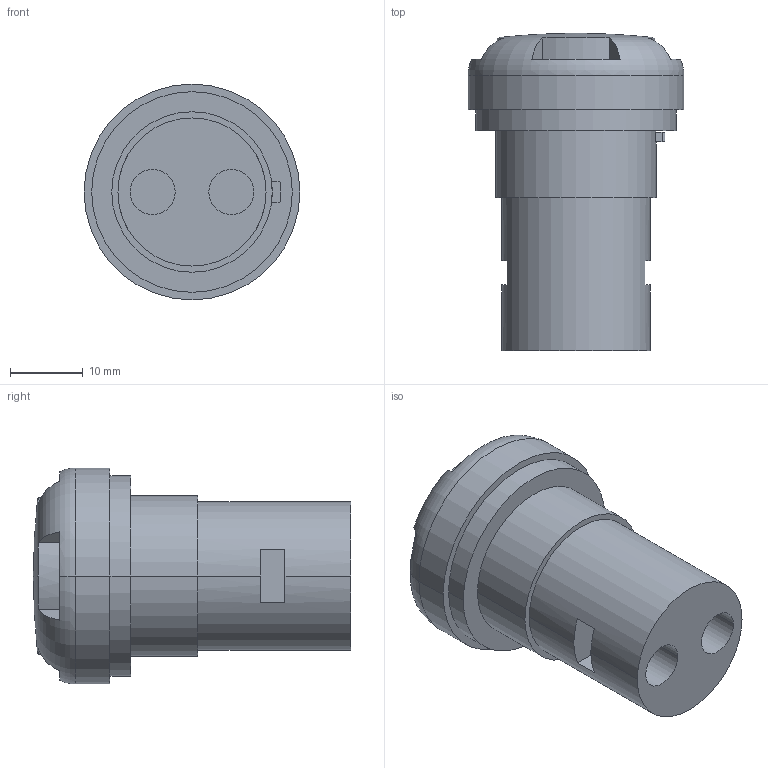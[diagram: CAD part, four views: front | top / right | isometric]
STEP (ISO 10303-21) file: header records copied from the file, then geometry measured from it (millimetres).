
FILE_DESCRIPTION (( 'STEP AP203' ), '1' );
FILE_NAME ('ZF_STEP_E6_xISxAxxVxx.STEP', '2015-07-14T09:48:08', ( 'utente' ), ( 'Microsoft' ), 'SwSTEP 2.0', 'SolidWorks 2014', '' );
FILE_SCHEMA (( 'CONFIG_CONTROL_DESIGN' ));
Length unit declared in the file: millimetre
Products named in the file (1): ZF_STEP_E6_xISxAxxVxx
Bounding box: 29.6 x 43.5 x 29.6 mm (x, y, z)
Volume: 17207.9 mm3; surface area: 4972.1 mm2
Topology: 1 solids, 1 shells, 54 faces, 137 edges, 90 vertices
Faces by surface type: plane 31, cylinder 19, torus 2, sphere 2
Entity records: 1747 total; most frequent: DIRECTION 320, CARTESIAN_POINT 282, ORIENTED_EDGE 274, EDGE_CURVE 137, AXIS2_PLACEMENT_3D 128, VERTEX_POINT 90, CIRCLE 73, LINE 64
